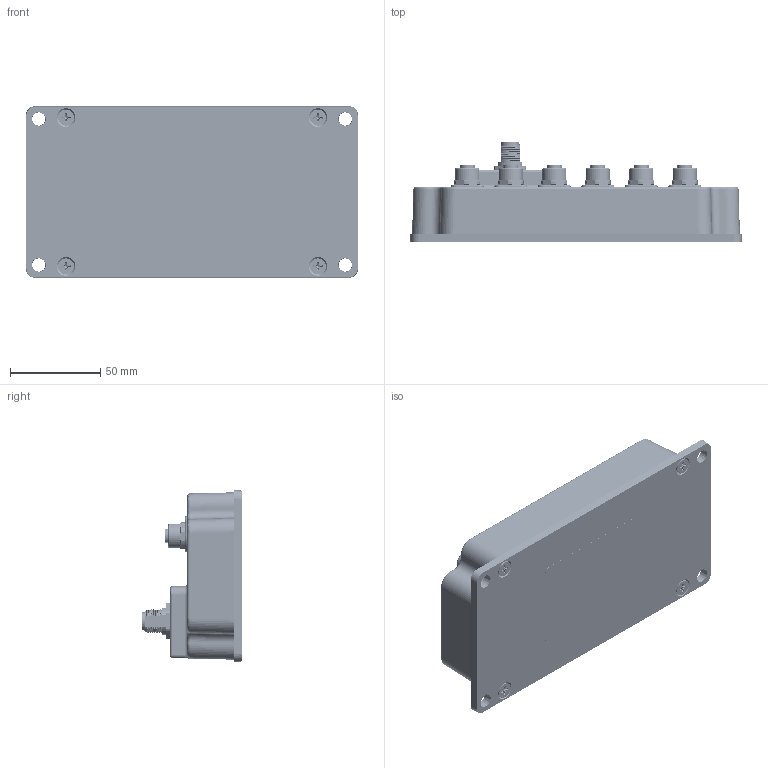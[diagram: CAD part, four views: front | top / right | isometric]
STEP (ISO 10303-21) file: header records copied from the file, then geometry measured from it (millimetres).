
FILE_DESCRIPTION (( 'STEP AP203' ), '1' );
FILE_NAME ('AX141570.STEP', '2026-01-13T15:59:02', ( '' ), ( '' ), 'SwSTEP 2.0', 'SolidWorks 2023', '' );
FILE_SCHEMA (( 'CONFIG_CONTROL_DESIGN' ));
Length unit declared in the file: millimetre
Products named in the file (24): 09-344x-126-05 backnut; M12 o ring; MG-23024-01 for STEP; LBP-AX141570-01-R1; CTP-23024-01-R2; MS-M5CX12SSPFU; AX141570; MMT-16010-01-R1; FHA-632-8; BINDER 09-3441-126-05; GAS-16010-01-R1; LBP-AX141570-02-R1 new; BINDER  99 3732 201 04; MOL 2064610600; 99_3732_201_04 counter nut; 99_3732_201_04 shell; GAS-13018-01-R2; CST-23024-01-R2; PLP5-2-250; LBM-AX141570-03-R1; SPAE 175-802; CAB-23024-01; CTP-13018-02-R3 anodized base; E-LOCTITE-E-30CL-50
Assembly tree (65 placements, depth 4):
  AX141570
    MG-23024-01 for STEP
      BINDER  99 3732 201 04  x6
      99_3732_201_04 counter nut  x6
      CTP-23024-01-R2
        FHA-632-8  x4
        CST-23024-01-R2
      GAS-16010-01-R1
      MMT-16010-01-R1
      SPAE 175-802  x4
      CAB-23024-01
        BINDER 09-3441-126-05
        09-344x-126-05 backnut
        MOL 2064610600
      PLP5-2-250  x13
      99_3732_201_04 shell  x6
      CTP-13018-02-R3 anodized base
      GAS-13018-01-R2
      MS-M5CX12SSPFU  x4
      E-LOCTITE-E-30CL-50
      09-344x-126-05 backnut
    LBP-AX141570-01-R1
    LBP-AX141570-02-R1 new
    LBM-AX141570-03-R1
    M12 o ring  x6
Bounding box: 184.15 x 55.66 x 95.25 mm (x, y, z)
Volume: 197721.3 mm3; surface area: 174505.7 mm2
Topology: 88 solids, 112 shells, 9483 faces, 25027 edges, 15977 vertices
Faces by surface type: plane 4688, cylinder 2272, bspline 1412, cone 608, sphere 259, torus 244
Entity records: 267190 total; most frequent: CARTESIAN_POINT 141975, ORIENTED_EDGE 27590, DIRECTION 20482, EDGE_CURVE 13795, LINE 8992, VECTOR 8992, VERTEX_POINT 8964, EDGE_LOOP 5895
